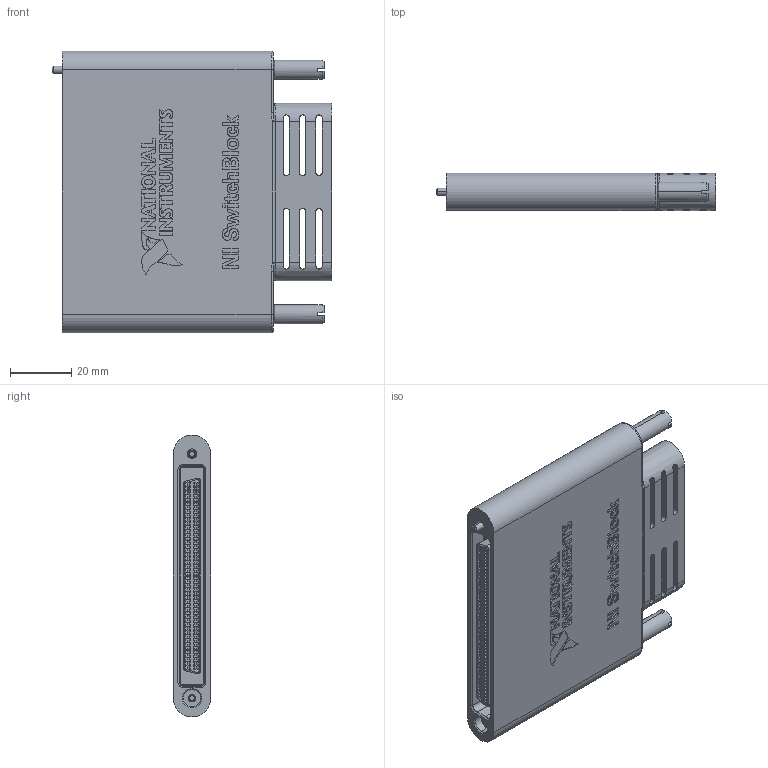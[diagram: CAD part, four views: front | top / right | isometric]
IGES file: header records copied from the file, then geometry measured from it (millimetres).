
Start section:  PTC IGES file: cu_sh96f-96m_female.igs
Global section: file name: cu_sh96f-96m_female.igs; native system: Pro/ENGINEER by Parametric Technology Corporation; preprocessor: 2006080; author: jjorden; organization: Unknown; date: 100521.133637; units: inch
Bounding box: 91.26 x 12.19 x 91.95 mm (x, y, z)
Surface area: 32106.6 mm2 (no closed solid volume)
Topology: 0 solids, 0 shells, 3318 faces, 17630 edges, 17630 vertices
Faces by surface type: bspline 2642, revolution 480, extrusion 196
